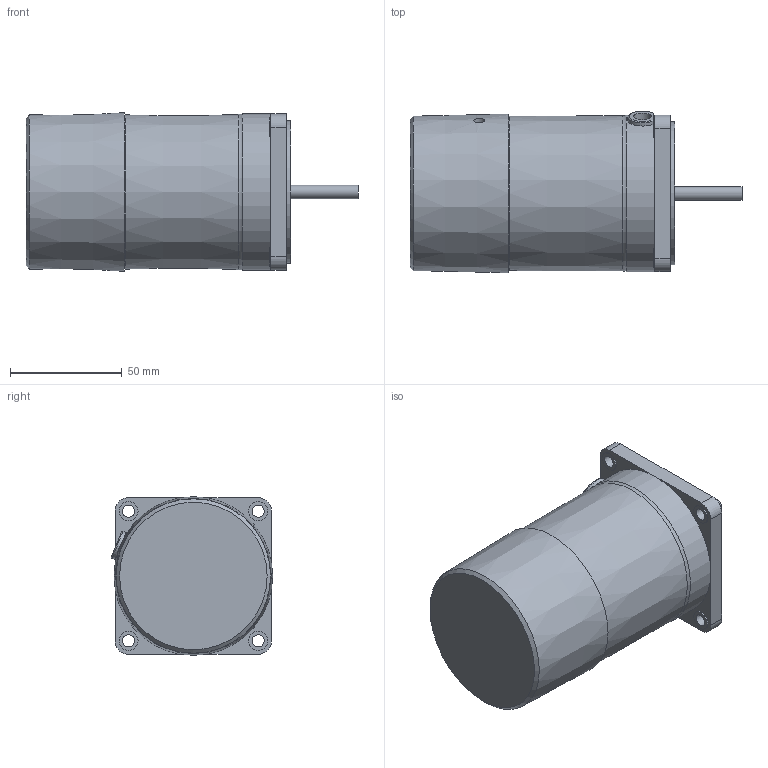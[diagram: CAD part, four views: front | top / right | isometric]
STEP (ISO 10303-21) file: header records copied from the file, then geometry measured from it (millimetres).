
FILE_DESCRIPTION((''),'2;1');
FILE_NAME('D:\김성묵\업무폴더\개발 파일\프로젝트 개발 AB등급\AC표준형 개발자료\90각 이하 표준형 개발\도면작성 자료\3D 도면\홈페이지용 3D 파일\15W MOTOR\BRACK TYPE\S7I15S-E.stp','2015-03-26T11:33:28',('smkim'),(''),'Autodesk Inventor 2012','Autodesk Inventor 2012','');
FILE_SCHEMA(('AUTOMOTIVE_DESIGN { 1 0 10303 214 1 1 1 1 }'));
Length unit declared in the file: millimetre
Products named in the file (5): S7I15S-E; S7I15GㅁCE; 6_CORD BUSH; 15W_전자BK COVER; S7_HOUSING S
Assembly tree (4 placements, depth 2):
  S7I15S-E
    S7I15GㅁCE
    6_CORD BUSH
    15W_전자BK COVER
    S7_HOUSING S
Bounding box: 148.5 x 72.22 x 70.99 mm (x, y, z)
Volume: 474606.1 mm3; surface area: 55870.3 mm2
Topology: 4 solids, 5 shells, 98 faces, 229 edges, 151 vertices
Faces by surface type: plane 58, cylinder 31, cone 7, torus 2
Full cylindrical faces by diameter (mm): 5 x1, 5.5 x4, 6 x1, 8 x1, 8.5 x4, 10 x1, 28 x1, 64 x1, 68 x1, 70 x1
Entity records: 2913 total; most frequent: CARTESIAN_POINT 555, DIRECTION 492, ORIENTED_EDGE 406, EDGE_CURVE 203, AXIS2_PLACEMENT_3D 193, VERTEX_POINT 147, EDGE_LOOP 144, VECTOR 106
